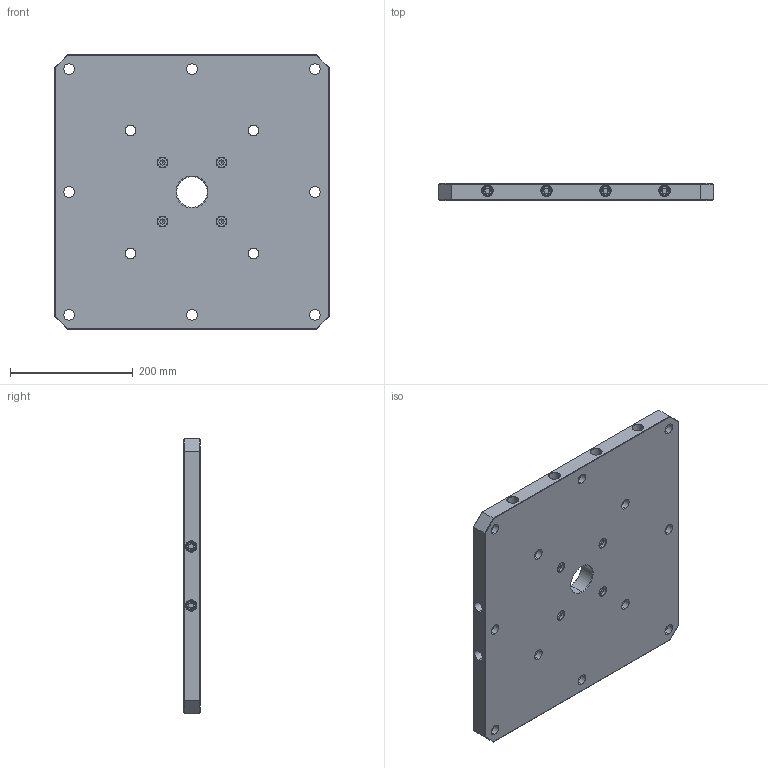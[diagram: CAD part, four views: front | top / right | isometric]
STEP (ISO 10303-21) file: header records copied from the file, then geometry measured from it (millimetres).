
FILE_DESCRIPTION (( 'STEP AP203' ), '1' );
FILE_NAME ('70008.STEP', '2019-03-28T11:58:59', ( 'Localadmin' ), ( '' ), 'SwSTEP 2.0', 'SolidWorks 2015', '' );
FILE_SCHEMA (( 'CONFIG_CONTROL_DESIGN' ));
Length unit declared in the file: millimetre
Products named in the file (1): 70008
Bounding box: 446 x 27 x 446 mm (x, y, z)
Volume: 5001343.1 mm3; surface area: 544858.9 mm2
Topology: 13 solids, 13 shells, 596 faces, 1242 edges, 724 vertices
Faces by surface type: cone 200, cylinder 186, plane 186, torus 24
Entity records: 17567 total; most frequent: CARTESIAN_POINT 4599, DIRECTION 2892, ORIENTED_EDGE 2468, EDGE_CURVE 1234, AXIS2_PLACEMENT_3D 1185, VERTEX_POINT 724, EDGE_LOOP 706, ADVANCED_FACE 596
